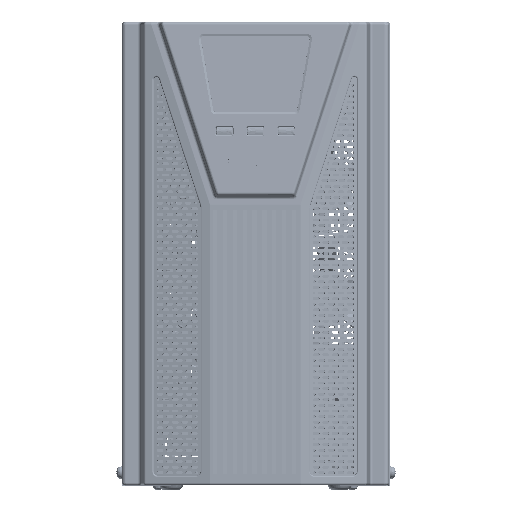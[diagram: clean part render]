
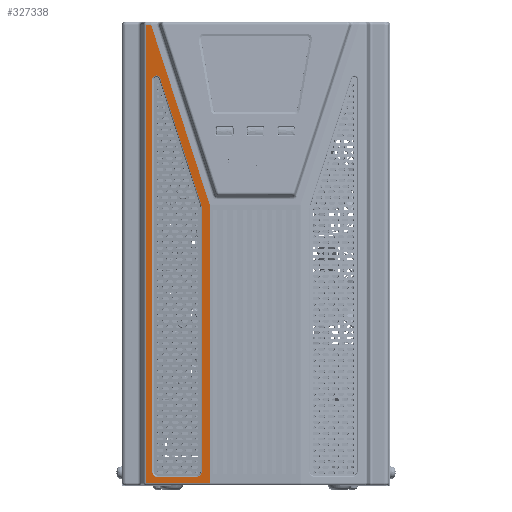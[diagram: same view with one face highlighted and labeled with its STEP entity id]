
A CAD part, top view. The second image highlights one B-rep face of the part: STEP entity #327338.
In plain terms, the highlighted planar face has unit normal (-0.208, 0, 0.978).
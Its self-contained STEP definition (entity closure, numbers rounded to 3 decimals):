
#1025 = ORIENTED_EDGE ( 'NONE', *, *, #126011, .T. ) ;
#8972 = VERTEX_POINT ( 'NONE', #114064 ) ;
#15026 = AXIS2_PLACEMENT_3D ( 'NONE', #322956, #115895, #254696 ) ;
#25528 = CARTESIAN_POINT ( 'NONE',  ( 339.778, 24.348, 345.467 ) ) ;
#26857 = ORIENTED_EDGE ( 'NONE', *, *, #256151, .T. ) ;
#28903 = EDGE_CURVE ( 'NONE', #389177, #193863, #44746, .T. ) ;
#30433 = DIRECTION ( 'NONE',  ( 0.208, 0., -0.978 ) ) ;
#44746 = LINE ( 'NONE', #87846, #79656 ) ;
#49202 = DIRECTION ( 'NONE',  ( 0., -1., 0. ) ) ;
#50700 = ORIENTED_EDGE ( 'NONE', *, *, #123206, .F. ) ;
#53299 = LINE ( 'NONE', #337648, #214363 ) ;
#53964 = EDGE_CURVE ( 'NONE', #279435, #394267, #167419, .T. ) ;
#55228 = AXIS2_PLACEMENT_3D ( 'NONE', #334477, #97778, #304821 ) ;
#57492 = CARTESIAN_POINT ( 'NONE',  ( 374.535, 215.067, 352.855 ) ) ;
#61217 = DIRECTION ( 'NONE',  ( -0.309, 0.949, -0.066 ) ) ;
#64483 = CARTESIAN_POINT ( 'NONE',  ( 335.229, 342.348, 344.5 ) ) ;
#67106 = LINE ( 'NONE', #242219, #324314 ) ;
#71763 = ORIENTED_EDGE ( 'NONE', *, *, #257196, .T. ) ;
#75396 = AXIS2_PLACEMENT_3D ( 'NONE', #107613, #348821, #131133 ) ;
#79656 = VECTOR ( 'NONE', #49202, 1000. ) ;
#84211 = VERTEX_POINT ( 'NONE', #239066 ) ;
#87846 = CARTESIAN_POINT ( 'NONE',  ( 335.229, 342.348, 344.5 ) ) ;
#97778 = DIRECTION ( 'NONE',  ( 0.208, 0., -0.978 ) ) ;
#98731 = FACE_OUTER_BOUND ( 'NONE', #377574, .T. ) ;
#100086 = LINE ( 'NONE', #163831, #390186 ) ;
#107613 = CARTESIAN_POINT ( 'NONE',  ( 343.691, 24.348, 346.299 ) ) ;
#107777 = CARTESIAN_POINT ( 'NONE',  ( 335.229, 342.348, 344.5 ) ) ;
#111791 = DIRECTION ( 'NONE',  ( 0., -1., 0. ) ) ;
#114064 = CARTESIAN_POINT ( 'NONE',  ( 339.778, 24.348, 345.467 ) ) ;
#115895 = DIRECTION ( 'NONE',  ( 0.208, 0., -0.978 ) ) ;
#118842 = ORIENTED_EDGE ( 'NONE', *, *, #199444, .T. ) ;
#123206 = EDGE_CURVE ( 'NONE', #389177, #84211, #180497, .T. ) ;
#124794 = LINE ( 'NONE', #443277, #241538 ) ;
#126011 = EDGE_CURVE ( 'NONE', #394267, #212744, #124794, .T. ) ;
#127247 = LINE ( 'NONE', #441259, #410353 ) ;
#128646 = ORIENTED_EDGE ( 'NONE', *, *, #387056, .F. ) ;
#131133 = DIRECTION ( 'NONE',  ( 0., -1., 0. ) ) ;
#131179 = CARTESIAN_POINT ( 'NONE',  ( 380.75, 214.279, 354.176 ) ) ;
#133764 = DIRECTION ( 'NONE',  ( -0.978, 0., -0.208 ) ) ;
#140299 = VECTOR ( 'NONE', #380416, 1000. ) ;
#143472 = VERTEX_POINT ( 'NONE', #143566 ) ;
#143566 = CARTESIAN_POINT ( 'NONE',  ( 339.778, 303.276, 345.467 ) ) ;
#145955 = CARTESIAN_POINT ( 'NONE',  ( 375.086, 211.592, 352.972 ) ) ;
#153059 = ORIENTED_EDGE ( 'NONE', *, *, #356987, .T. ) ;
#163831 = CARTESIAN_POINT ( 'NONE',  ( 345.497, 304.224, 346.683 ) ) ;
#167307 = CIRCLE ( 'NONE', #254319, 11. ) ;
#167419 = CIRCLE ( 'NONE', #15026, 4. ) ;
#171027 = VECTOR ( 'NONE', #111791, 1000. ) ;
#178390 = CARTESIAN_POINT ( 'NONE',  ( 371.174, 20.348, 352.141 ) ) ;
#180497 = LINE ( 'NONE', #107777, #284465 ) ;
#191234 = AXIS2_PLACEMENT_3D ( 'NONE', #376332, #30433, #308012 ) ;
#193845 = VERTEX_POINT ( 'NONE', #282917 ) ;
#193863 = VERTEX_POINT ( 'NONE', #219169 ) ;
#196019 = CARTESIAN_POINT ( 'NONE',  ( 364.327, 211.592, 350.685 ) ) ;
#199444 = EDGE_CURVE ( 'NONE', #8972, #143472, #441968, .T. ) ;
#212744 = VERTEX_POINT ( 'NONE', #448071 ) ;
#214363 = VECTOR ( 'NONE', #294513, 1000. ) ;
#219169 = CARTESIAN_POINT ( 'NONE',  ( 335.229, 16.348, 344.5 ) ) ;
#220966 = LINE ( 'NONE', #145955, #171027 ) ;
#229592 = CARTESIAN_POINT ( 'NONE',  ( 375.086, 211.592, 352.972 ) ) ;
#234444 = EDGE_CURVE ( 'NONE', #268203, #279435, #220966, .T. ) ;
#236018 = ORIENTED_EDGE ( 'NONE', *, *, #323260, .T. ) ;
#236450 = VERTEX_POINT ( 'NONE', #131179 ) ;
#237484 = PLANE ( 'NONE',  #191234 ) ;
#239066 = CARTESIAN_POINT ( 'NONE',  ( 339.037, 342.348, 345.31 ) ) ;
#241538 = VECTOR ( 'NONE', #133764, 1000. ) ;
#242219 = CARTESIAN_POINT ( 'NONE',  ( 380.75, 214.279, 354.176 ) ) ;
#246720 = DIRECTION ( 'NONE',  ( 0., -1., 0. ) ) ;
#254319 = AXIS2_PLACEMENT_3D ( 'NONE', #196019, #305197, #444048 ) ;
#254696 = DIRECTION ( 'NONE',  ( 0.978, 0., 0.208 ) ) ;
#256151 = EDGE_CURVE ( 'NONE', #143472, #298791, #440199, .T. ) ;
#256587 = VERTEX_POINT ( 'NONE', #57492 ) ;
#257196 = EDGE_CURVE ( 'NONE', #298791, #256587, #100086, .T. ) ;
#268203 = VERTEX_POINT ( 'NONE', #229592 ) ;
#271622 = FACE_BOUND ( 'NONE', #306696, .T. ) ;
#279435 = VERTEX_POINT ( 'NONE', #441886 ) ;
#282917 = CARTESIAN_POINT ( 'NONE',  ( 380.75, 16.348, 354.176 ) ) ;
#284465 = VECTOR ( 'NONE', #428528, 1000. ) ;
#294513 = DIRECTION ( 'NONE',  ( -0.978, 0., -0.208 ) ) ;
#295823 = ORIENTED_EDGE ( 'NONE', *, *, #422617, .F. ) ;
#298791 = VERTEX_POINT ( 'NONE', #341492 ) ;
#304821 = DIRECTION ( 'NONE',  ( -0.978, 0., -0.208 ) ) ;
#305197 = DIRECTION ( 'NONE',  ( 0.208, 0., -0.978 ) ) ;
#306696 = EDGE_LOOP ( 'NONE', ( #236018, #426667, #447396, #1025, #153059, #118842, #26857, #71763 ) ) ;
#308012 = DIRECTION ( 'NONE',  ( 0., 1., 0. ) ) ;
#315111 = CIRCLE ( 'NONE', #75396, 4. ) ;
#322956 = CARTESIAN_POINT ( 'NONE',  ( 371.174, 24.348, 352.141 ) ) ;
#323260 = EDGE_CURVE ( 'NONE', #256587, #268203, #167307, .T. ) ;
#324314 = VECTOR ( 'NONE', #246720, 1000. ) ;
#327338 = ADVANCED_FACE ( 'NONE', ( #271622, #98731 ), #237484, .F. ) ;
#334477 = CARTESIAN_POINT ( 'NONE',  ( 342.712, 303.276, 346.091 ) ) ;
#337648 = CARTESIAN_POINT ( 'NONE',  ( 380.75, 16.348, 354.176 ) ) ;
#341492 = CARTESIAN_POINT ( 'NONE',  ( 345.497, 304.224, 346.683 ) ) ;
#348821 = DIRECTION ( 'NONE',  ( 0.208, 0., -0.978 ) ) ;
#356987 = EDGE_CURVE ( 'NONE', #212744, #8972, #315111, .T. ) ;
#370981 = DIRECTION ( 'NONE',  ( 0.309, -0.949, 0.066 ) ) ;
#376332 = CARTESIAN_POINT ( 'NONE',  ( 333.909, 14.348, 344.22 ) ) ;
#377574 = EDGE_LOOP ( 'NONE', ( #443268, #295823, #128646, #418189, #50700 ) ) ;
#380416 = DIRECTION ( 'NONE',  ( 0., 1., 0. ) ) ;
#387056 = EDGE_CURVE ( 'NONE', #236450, #193845, #67106, .T. ) ;
#389177 = VERTEX_POINT ( 'NONE', #64483 ) ;
#390186 = VECTOR ( 'NONE', #370981, 1000. ) ;
#394267 = VERTEX_POINT ( 'NONE', #178390 ) ;
#410353 = VECTOR ( 'NONE', #61217, 1000. ) ;
#416925 = EDGE_CURVE ( 'NONE', #236450, #84211, #127247, .T. ) ;
#418189 = ORIENTED_EDGE ( 'NONE', *, *, #416925, .T. ) ;
#422617 = EDGE_CURVE ( 'NONE', #193845, #193863, #53299, .T. ) ;
#426667 = ORIENTED_EDGE ( 'NONE', *, *, #234444, .T. ) ;
#428528 = DIRECTION ( 'NONE',  ( 0.978, 0., 0.208 ) ) ;
#440199 = CIRCLE ( 'NONE', #55228, 3. ) ;
#441259 = CARTESIAN_POINT ( 'NONE',  ( 380.75, 214.279, 354.176 ) ) ;
#441886 = CARTESIAN_POINT ( 'NONE',  ( 375.086, 24.348, 352.972 ) ) ;
#441968 = LINE ( 'NONE', #25528, #140299 ) ;
#443268 = ORIENTED_EDGE ( 'NONE', *, *, #28903, .T. ) ;
#443277 = CARTESIAN_POINT ( 'NONE',  ( 371.174, 20.348, 352.141 ) ) ;
#444048 = DIRECTION ( 'NONE',  ( 0.928, 0.316, 0.197 ) ) ;
#447396 = ORIENTED_EDGE ( 'NONE', *, *, #53964, .T. ) ;
#448071 = CARTESIAN_POINT ( 'NONE',  ( 343.691, 20.348, 346.299 ) ) ;
